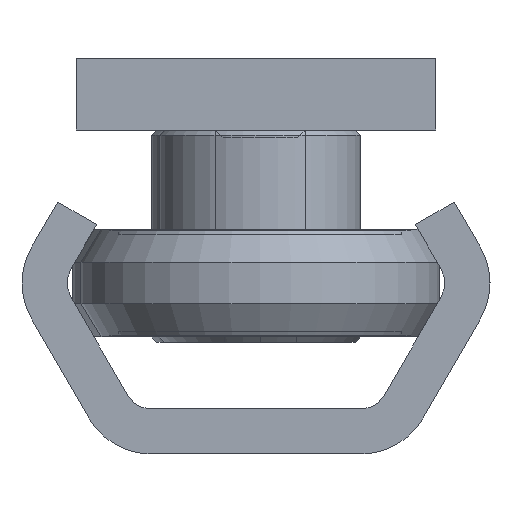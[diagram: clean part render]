
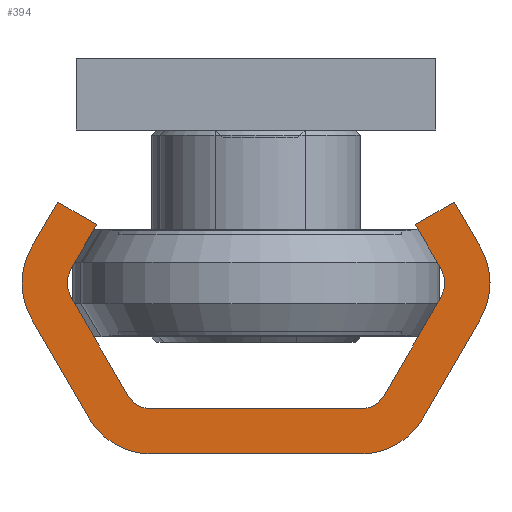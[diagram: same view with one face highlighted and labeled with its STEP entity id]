
A CAD part, left-side view. The second image highlights one B-rep face of the part: STEP entity #394.
In plain terms, the highlighted planar face has unit normal (-1, 0, 0).
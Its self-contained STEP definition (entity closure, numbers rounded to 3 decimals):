
#394 = ADVANCED_FACE( '', ( #851 ), #852, .F. );
#851 = FACE_OUTER_BOUND( '', #1575, .T. );
#852 = PLANE( '', #1576 );
#1575 = EDGE_LOOP( '', ( #2500, #2501, #2502, #2503, #2504, #2505, #2506, #2507, #2508, #2509, #2510, #2511, #2512, #2513, #2514, #2515, #2516, #2517, #2518, #2519 ) );
#1576 = AXIS2_PLACEMENT_3D( '', #2520, #2521, #2522 );
#2500 = ORIENTED_EDGE( '', *, *, #3641, .F. );
#2501 = ORIENTED_EDGE( '', *, *, #3642, .F. );
#2502 = ORIENTED_EDGE( '', *, *, #3490, .F. );
#2503 = ORIENTED_EDGE( '', *, *, #3643, .F. );
#2504 = ORIENTED_EDGE( '', *, *, #3644, .F. );
#2505 = ORIENTED_EDGE( '', *, *, #3645, .F. );
#2506 = ORIENTED_EDGE( '', *, *, #3646, .F. );
#2507 = ORIENTED_EDGE( '', *, *, #3647, .T. );
#2508 = ORIENTED_EDGE( '', *, *, #3501, .F. );
#2509 = ORIENTED_EDGE( '', *, *, #3648, .T. );
#2510 = ORIENTED_EDGE( '', *, *, #3649, .F. );
#2511 = ORIENTED_EDGE( '', *, *, #3650, .T. );
#2512 = ORIENTED_EDGE( '', *, *, #3651, .F. );
#2513 = ORIENTED_EDGE( '', *, *, #3652, .T. );
#2514 = ORIENTED_EDGE( '', *, *, #3653, .F. );
#2515 = ORIENTED_EDGE( '', *, *, #3654, .F. );
#2516 = ORIENTED_EDGE( '', *, *, #3553, .F. );
#2517 = ORIENTED_EDGE( '', *, *, #3615, .F. );
#2518 = ORIENTED_EDGE( '', *, *, #3655, .F. );
#2519 = ORIENTED_EDGE( '', *, *, #3656, .F. );
#2520 = CARTESIAN_POINT( '', ( 0., -5.825, -4. ) );
#2521 = DIRECTION( '', ( 1., 0., 0. ) );
#2522 = DIRECTION( '', ( 0., 0., -1. ) );
#3490 = EDGE_CURVE( '', #3969, #3970, #3971, .T. );
#3501 = EDGE_CURVE( '', #3988, #3989, #3990, .T. );
#3553 = EDGE_CURVE( '', #4080, #4081, #4082, .T. );
#3615 = EDGE_CURVE( '', #4182, #4080, #4183, .T. );
#3641 = EDGE_CURVE( '', #4226, #4227, #4228, .T. );
#3642 = EDGE_CURVE( '', #3970, #4226, #4229, .T. );
#3643 = EDGE_CURVE( '', #4230, #3969, #4231, .T. );
#3644 = EDGE_CURVE( '', #4232, #4230, #4233, .T. );
#3645 = EDGE_CURVE( '', #4234, #4232, #4235, .T. );
#3646 = EDGE_CURVE( '', #4236, #4234, #4237, .T. );
#3647 = EDGE_CURVE( '', #4236, #3989, #4238, .T. );
#3648 = EDGE_CURVE( '', #3988, #4239, #4240, .T. );
#3649 = EDGE_CURVE( '', #4241, #4239, #4242, .T. );
#3650 = EDGE_CURVE( '', #4241, #4243, #4244, .T. );
#3651 = EDGE_CURVE( '', #4245, #4243, #4246, .T. );
#3652 = EDGE_CURVE( '', #4245, #4247, #4248, .T. );
#3653 = EDGE_CURVE( '', #4249, #4247, #4250, .T. );
#3654 = EDGE_CURVE( '', #4081, #4249, #4251, .T. );
#3655 = EDGE_CURVE( '', #4252, #4182, #4253, .T. );
#3656 = EDGE_CURVE( '', #4227, #4252, #4254, .T. );
#3969 = VERTEX_POINT( '', #4671 );
#3970 = VERTEX_POINT( '', #4672 );
#3971 = LINE( '', #4673, #4674 );
#3988 = VERTEX_POINT( '', #4694 );
#3989 = VERTEX_POINT( '', #4695 );
#3990 = LINE( '', #4696, #4697 );
#4080 = VERTEX_POINT( '', #4796 );
#4081 = VERTEX_POINT( '', #4797 );
#4082 = LINE( '', #4798, #4799 );
#4182 = VERTEX_POINT( '', #4927 );
#4183 = CIRCLE( '', #4928, 4. );
#4226 = VERTEX_POINT( '', #4981 );
#4227 = VERTEX_POINT( '', #4982 );
#4228 = LINE( '', #4983, #4984 );
#4229 = CIRCLE( '', #4985, 4. );
#4230 = VERTEX_POINT( '', #4986 );
#4231 = CIRCLE( '', #4987, 4. );
#4232 = VERTEX_POINT( '', #4988 );
#4233 = LINE( '', #4989, #4990 );
#4234 = VERTEX_POINT( '', #4991 );
#4235 = LINE( '', #4992, #4993 );
#4236 = VERTEX_POINT( '', #4994 );
#4237 = LINE( '', #4995, #4996 );
#4238 = CIRCLE( '', #4997, 1.5 );
#4239 = VERTEX_POINT( '', #4998 );
#4240 = CIRCLE( '', #4999, 1.5 );
#4241 = VERTEX_POINT( '', #5000 );
#4242 = LINE( '', #5001, #5002 );
#4243 = VERTEX_POINT( '', #5003 );
#4244 = CIRCLE( '', #5004, 1.5 );
#4245 = VERTEX_POINT( '', #5005 );
#4246 = LINE( '', #5006, #5007 );
#4247 = VERTEX_POINT( '', #5008 );
#4248 = CIRCLE( '', #5009, 1.5 );
#4249 = VERTEX_POINT( '', #5010 );
#4250 = LINE( '', #5011, #5012 );
#4251 = LINE( '', #5013, #5014 );
#4252 = VERTEX_POINT( '', #5015 );
#4253 = LINE( '', #5016, #5017 );
#4254 = CIRCLE( '', #5018, 4. );
#4671 = CARTESIAN_POINT( '', ( 0., 12.464, -7.5 ) );
#4672 = CARTESIAN_POINT( '', ( 0., 9.289, -2. ) );
#4673 = CARTESIAN_POINT( '', ( 0., 12.464, -7.5 ) );
#4674 = VECTOR( '', #5503, 1000. );
#4694 = CARTESIAN_POINT( '', ( 0., 7.124, -3.25 ) );
#4695 = CARTESIAN_POINT( '', ( 0., 10.299, -8.75 ) );
#4696 = CARTESIAN_POINT( '', ( 0., 7.124, -3.25 ) );
#4697 = VECTOR( '', #5519, 1000. );
#4796 = CARTESIAN_POINT( '', ( 0., -12.464, -11.5 ) );
#4797 = CARTESIAN_POINT( '', ( 0., -11.021, -14. ) );
#4798 = CARTESIAN_POINT( '', ( 0., -12.464, -11.5 ) );
#4799 = VECTOR( '', #5619, 1000. );
#4927 = CARTESIAN_POINT( '', ( 0., -12.464, -7.5 ) );
#4928 = AXIS2_PLACEMENT_3D( '', #5699, #5700, #5701 );
#4981 = CARTESIAN_POINT( '', ( 0., 5.825, 0. ) );
#4982 = CARTESIAN_POINT( '', ( 0., -5.825, 0. ) );
#4983 = CARTESIAN_POINT( '', ( 0., 5.825, 0. ) );
#4984 = VECTOR( '', #5745, 1000. );
#4985 = AXIS2_PLACEMENT_3D( '', #5746, #5747, #5748 );
#4986 = CARTESIAN_POINT( '', ( 0., 12.464, -11.5 ) );
#4987 = AXIS2_PLACEMENT_3D( '', #5749, #5750, #5751 );
#4988 = CARTESIAN_POINT( '', ( 0., 11.021, -14. ) );
#4989 = CARTESIAN_POINT( '', ( 0., 11.021, -14. ) );
#4990 = VECTOR( '', #5752, 1000. );
#4991 = CARTESIAN_POINT( '', ( 0., 8.856, -12.75 ) );
#4992 = CARTESIAN_POINT( '', ( 0., 8.856, -12.75 ) );
#4993 = VECTOR( '', #5753, 1000. );
#4994 = CARTESIAN_POINT( '', ( 0., 10.299, -10.25 ) );
#4995 = CARTESIAN_POINT( '', ( 0., 10.299, -10.25 ) );
#4996 = VECTOR( '', #5754, 1000. );
#4997 = AXIS2_PLACEMENT_3D( '', #5755, #5756, #5757 );
#4998 = CARTESIAN_POINT( '', ( 0., 5.825, -2.5 ) );
#4999 = AXIS2_PLACEMENT_3D( '', #5758, #5759, #5760 );
#5000 = CARTESIAN_POINT( '', ( 0., -5.825, -2.5 ) );
#5001 = CARTESIAN_POINT( '', ( 0., -5.825, -2.5 ) );
#5002 = VECTOR( '', #5761, 1000. );
#5003 = CARTESIAN_POINT( '', ( 0., -7.124, -3.25 ) );
#5004 = AXIS2_PLACEMENT_3D( '', #5762, #5763, #5764 );
#5005 = CARTESIAN_POINT( '', ( 0., -10.299, -8.75 ) );
#5006 = CARTESIAN_POINT( '', ( 0., -10.299, -8.75 ) );
#5007 = VECTOR( '', #5765, 1000. );
#5008 = CARTESIAN_POINT( '', ( 0., -10.299, -10.25 ) );
#5009 = AXIS2_PLACEMENT_3D( '', #5766, #5767, #5768 );
#5010 = CARTESIAN_POINT( '', ( 0., -8.856, -12.75 ) );
#5011 = CARTESIAN_POINT( '', ( 0., -8.856, -12.75 ) );
#5012 = VECTOR( '', #5769, 1000. );
#5013 = CARTESIAN_POINT( '', ( 0., -11.021, -14. ) );
#5014 = VECTOR( '', #5770, 1000. );
#5015 = CARTESIAN_POINT( '', ( 0., -9.289, -2. ) );
#5016 = CARTESIAN_POINT( '', ( 0., -9.289, -2. ) );
#5017 = VECTOR( '', #5771, 1000. );
#5018 = AXIS2_PLACEMENT_3D( '', #5772, #5773, #5774 );
#5503 = DIRECTION( '', ( 0., -0.5, 0.866 ) );
#5519 = DIRECTION( '', ( 0., 0.5, -0.866 ) );
#5619 = DIRECTION( '', ( 0., 0.5, -0.866 ) );
#5699 = CARTESIAN_POINT( '', ( 0., -9., -9.5 ) );
#5700 = DIRECTION( '', ( 1., 0., 0. ) );
#5701 = DIRECTION( '', ( 0., 0., -1. ) );
#5745 = DIRECTION( '', ( 0., -1., 0. ) );
#5746 = CARTESIAN_POINT( '', ( 0., 5.825, -4. ) );
#5747 = DIRECTION( '', ( 1., 0., 0. ) );
#5748 = DIRECTION( '', ( 0., 0., -1. ) );
#5749 = CARTESIAN_POINT( '', ( 0., 9., -9.5 ) );
#5750 = DIRECTION( '', ( 1., 0., 0. ) );
#5751 = DIRECTION( '', ( 0., 0., -1. ) );
#5752 = DIRECTION( '', ( 0., 0.5, 0.866 ) );
#5753 = DIRECTION( '', ( 0., 0.866, -0.5 ) );
#5754 = DIRECTION( '', ( 0., -0.5, -0.866 ) );
#5755 = CARTESIAN_POINT( '', ( 0., 9., -9.5 ) );
#5756 = DIRECTION( '', ( 1., 0., 0. ) );
#5757 = DIRECTION( '', ( 0., 0., -1. ) );
#5758 = CARTESIAN_POINT( '', ( 0., 5.825, -4. ) );
#5759 = DIRECTION( '', ( 1., 0., 0. ) );
#5760 = DIRECTION( '', ( 0., 0., -1. ) );
#5761 = DIRECTION( '', ( 0., 1., 0. ) );
#5762 = CARTESIAN_POINT( '', ( 0., -5.825, -4. ) );
#5763 = DIRECTION( '', ( 1., 0., 0. ) );
#5764 = DIRECTION( '', ( 0., 0., -1. ) );
#5765 = DIRECTION( '', ( 0., 0.5, 0.866 ) );
#5766 = CARTESIAN_POINT( '', ( 0., -9., -9.5 ) );
#5767 = DIRECTION( '', ( 1., 0., 0. ) );
#5768 = DIRECTION( '', ( 0., 0., -1. ) );
#5769 = DIRECTION( '', ( 0., -0.5, 0.866 ) );
#5770 = DIRECTION( '', ( 0., 0.866, 0.5 ) );
#5771 = DIRECTION( '', ( 0., -0.5, -0.866 ) );
#5772 = CARTESIAN_POINT( '', ( 0., -5.825, -4. ) );
#5773 = DIRECTION( '', ( 1., 0., 0. ) );
#5774 = DIRECTION( '', ( 0., 0., -1. ) );
